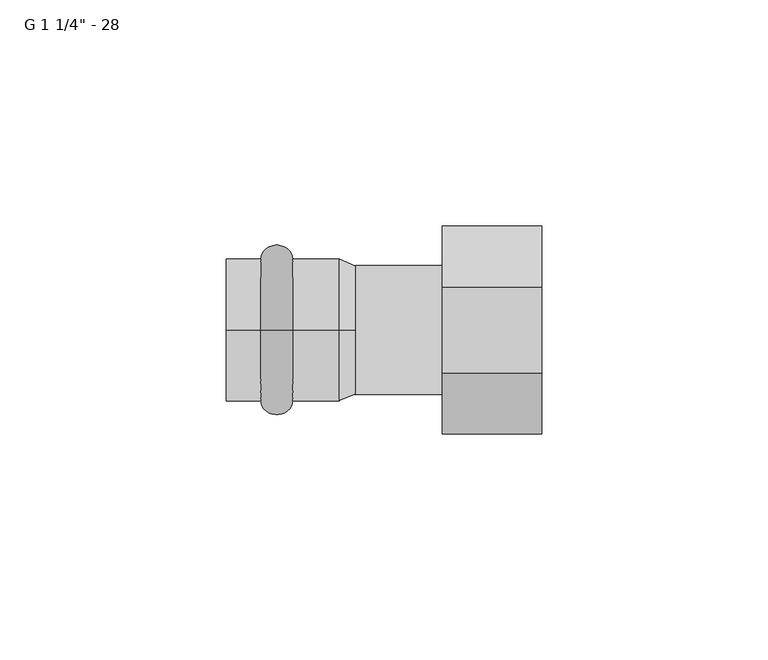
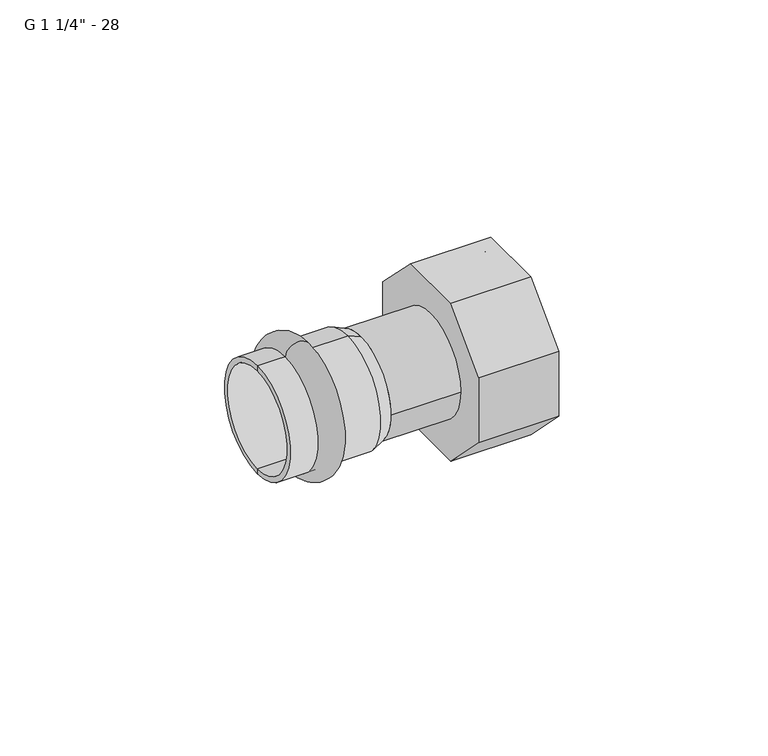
"""IFC4 building model written with IfcOpenShell, lengths in millimetres: pipe fitting geometry."""

from ifc_helpers import new_model, si_unit, point, frame, origin, origin_2d, place, context, project, spatial, polyline, circle_curve, ellipse_curve, trimmed, segment, composite_curve, outline, extrude, source, transform, mapped, element, save
from ifc_brep_helpers import plane_surface, cylinder_surface, revolved_surface, advanced_brep


def pipe_fitting_48b994d6(model_context):
    return source(origin(), model_context, "Body", "SolidModel", [
        advanced_brep(
        [(-17.3, 0.0, 15.75), (-17.3, 0.0, -15.75), (-10.3, 0.0, -15.75), (-10.3, 0.0, 15.75)],
        [
            (0, 1, circle_curve(frame((-17.3, 0.0, 0.0), z_axis=(-1.0, 0.0, 0.0), x_axis=(0.0, 0.0, -1.0)), 15.75)),
            (1, 2),
            (2, 3, circle_curve(frame((-10.3, 0.0, 0.0), z_axis=(1.0, 0.0, 0.0), x_axis=(0.0, 0.0, -1.0)), 15.75)),
            (3, 0),
            (1, 0, circle_curve(frame((-17.3, 0.0, 0.0), z_axis=(-1.0, 0.0, 0.0), x_axis=(0.0, 0.0, -1.0)), 15.75)),
            (3, 2, circle_curve(frame((-10.3, 0.0, 0.0), z_axis=(1.0, 0.0, 0.0), x_axis=(0.0, 0.0, -1.0)), 15.75)),
            (2, 1, ellipse_curve(frame((-13.8, 0.0, -15.75), z_axis=(0.0, 1.0, 0.0), x_axis=(-1.0, 0.0, 0.0)), 3.5, 3.1)),
            (0, 3, ellipse_curve(frame((-13.8, 0.0, 15.75), z_axis=(0.0, 1.0, 0.0), x_axis=(-1.0, 0.0, 0.0)), 3.5, 3.1)),
        ],
        [
            revolved_surface(polyline([(-10.3, 0.0, -15.75), (-17.3, 0.0, -15.75)]), (2.7, 0.0, 0.0), (1.0, 0.0, 0.0)),
            revolved_surface(trimmed(ellipse_curve(frame((-13.8, 0.0, -15.75), z_axis=(0.0, -1.0, 0.0), x_axis=(-1.0, 0.0, 0.0)), 3.5, 3.1), [point((-17.3, 0.0, -15.75))], [point((-10.3, 0.0, -15.75))], True, "CARTESIAN"), (2.7, 0.0, 0.0), (1.0, 0.0, 0.0)),
        ],
        [
            (0, [[1, 2, 3, 4]]),
            (0, [[5, -4, 6, -2]]),
            (1, [[-3, 7, -1, 8]]),
            (1, [[-6, -8, -5, -7]]),
        ],
    ),
        advanced_brep(
        [(3.5337785, 0.0, 14.25), (3.5337785, 0.0, -14.25), (0.0, 0.0, -15.75), (0.0, 0.0, 15.75), (-25.0, 0.0, 14.25), (-25.0, 0.0, -14.25), (-25.0, 0.0, 15.75), (-25.0, 0.0, -15.75)],
        [
            (0, 1, circle_curve(frame((3.5337785, 0.0, 0.0), z_axis=(-1.0, 0.0, 0.0), x_axis=(0.0, 0.0, -1.0)), 14.25)),
            (1, 2),
            (2, 3, circle_curve(frame((0.0, 0.0, 0.0), z_axis=(1.0, 0.0, 0.0), x_axis=(0.0, 0.0, -1.0)), 15.75)),
            (3, 0),
            (1, 0, circle_curve(frame((3.5337785, 0.0, 0.0), z_axis=(-1.0, 0.0, 0.0), x_axis=(0.0, 0.0, -1.0)), 14.25)),
            (3, 2, circle_curve(frame((0.0, 0.0, 0.0), z_axis=(1.0, 0.0, 0.0), x_axis=(0.0, 0.0, -1.0)), 15.75)),
            (4, 5, circle_curve(frame((-25.0, 0.0, 0.0), z_axis=(-1.0, 0.0, 0.0), x_axis=(0.0, 0.0, -1.0)), 14.25)),
            (5, 1),
            (0, 4),
            (5, 4, circle_curve(frame((-25.0, 0.0, 0.0), z_axis=(-1.0, 0.0, 0.0), x_axis=(0.0, 0.0, -1.0)), 14.25)),
            (6, 7, circle_curve(frame((-25.0, 0.0, 0.0), z_axis=(-1.0, 0.0, 0.0), x_axis=(0.0, 0.0, -1.0)), 15.75)),
            (7, 5),
            (4, 6),
            (7, 6, circle_curve(frame((-25.0, 0.0, 0.0), z_axis=(-1.0, 0.0, 0.0), x_axis=(0.0, 0.0, -1.0)), 15.75)),
            (2, 7),
            (6, 3),
        ],
        [
            revolved_surface(polyline([(0.0, 0.0, -15.75), (3.5337785, 0.0, -14.25)]), (2.7, 0.0, 0.0), (1.0, 0.0, 0.0)),
            revolved_surface(polyline([(3.5337785, 0.0, -14.25), (-25.0, 0.0, -14.25)]), (2.7, 0.0, 0.0), (1.0, 0.0, 0.0)),
            plane_surface(frame((-25.0, 0.0, 0.0), z_axis=(-1.0, 0.0, 0.0), x_axis=(0.0, 0.0, -1.0))),
            cylinder_surface(frame((2.7, 0.0, 0.0), z_axis=(1.0, 0.0, 0.0), x_axis=(0.0, 0.0, -1.0)), 15.75),
        ],
        [
            (0, [[1, 2, 3, 4]]),
            (0, [[5, -4, 6, -2]]),
            (1, [[7, 8, -1, 9]]),
            (1, [[10, -9, -5, -8]]),
            (2, [[11, 12, -7, 13]]),
            (2, [[14, -13, -10, -12]]),
            (3, [[-3, 15, -11, 16]]),
            (3, [[-6, -16, -14, -15]]),
        ],
    ),
        extrude(outline(composite_curve([segment(trimmed(circle_curve(origin_2d(), 14.25), [point((-14.25, 0.0))], [point((14.25, 0.0))], False, "CARTESIAN"), True, "CONTINUOUS"), segment(trimmed(circle_curve(origin_2d(), 14.25), [point((14.25, 0.0))], [point((-14.25, 0.0))], False, "CARTESIAN"), True, "CONTINUOUS")], self_intersect=False)), frame((3.5337785, 0.0, 0.0), z_axis=(1.0, 0.0, 0.0), x_axis=(0.0, 1.0, 0.0)), (0.0, 0.0, 1.0), 19.3),
        advanced_brep(
        [(44.8337785, -23.0, -9.5269119), (22.8337785, -23.0, -9.5269119), (22.8337785, -9.5269119, -23.0), (44.8337785, -9.5269119, -23.0), (22.8337785, 9.5269119, -23.0), (44.8337785, 9.5269119, -23.0), (44.8337785, 23.0, 9.5269119), (22.8337785, 23.0, 9.5269119), (22.8337785, 9.5269119, 23.0), (44.8337785, 9.5269119, 23.0), (22.8337785, -9.5269119, 23.0), (44.8337785, -9.5269119, 23.0), (22.8337785, 23.0, -9.5269119), (44.8337785, 23.0, -9.5269119), (22.8337785, -23.0, 9.5269119), (44.8337785, -23.0, 9.5269119), (28.8337785, -21.0, 0.0), (28.8337785, 21.0, 0.0), (28.8337785, -5.3847763, -13.0), (28.8337785, -13.0, -5.3847763), (28.8337785, -13.0, 5.3847763), (28.8337785, -5.3847763, 13.0), (28.8337785, 5.3847763, 13.0), (28.8337785, 13.0, 5.3847763), (28.8337785, 13.0, -5.3847763), (28.8337785, 5.3847763, -13.0), (44.8337785, 21.0, 0.0), (44.8337785, -21.0, 0.0), (22.8337785, -13.0, -5.3847763), (22.8337785, -5.3847763, -13.0), (22.8337785, 5.3847763, -13.0), (22.8337785, 13.0, -5.3847763), (22.8337785, 13.0, 5.3847763), (22.8337785, 5.3847763, 13.0), (22.8337785, -5.3847763, 13.0), (22.8337785, -13.0, 5.3847763)],
        [
            (0, 1),
            (1, 2),
            (2, 3),
            (3, 0),
            (2, 4),
            (4, 5),
            (5, 3),
            (6, 7),
            (7, 8),
            (8, 9),
            (9, 6),
            (8, 10),
            (10, 11),
            (11, 9),
            (4, 12),
            (12, 13),
            (13, 5),
            (10, 14),
            (14, 15),
            (15, 11),
            (16, 17, circle_curve(frame((28.8337785, 0.0, 0.0), z_axis=(1.0, 0.0, 0.0), x_axis=(0.0, 1.0, 0.0)), 21.0)),
            (17, 16, circle_curve(frame((28.8337785, 0.0, 0.0), z_axis=(1.0, 0.0, 0.0), x_axis=(0.0, 1.0, 0.0)), 21.0)),
            (18, 19),
            (19, 20),
            (20, 21),
            (21, 22),
            (22, 23),
            (23, 24),
            (24, 25),
            (25, 18),
            (17, 26),
            (26, 27, circle_curve(frame((44.8337785, 0.0, 0.0), z_axis=(1.0, 0.0, 0.0), x_axis=(0.0, 1.0, 0.0)), 21.0)),
            (27, 16),
            (27, 26, circle_curve(frame((44.8337785, 0.0, 0.0), z_axis=(1.0, 0.0, 0.0), x_axis=(0.0, 1.0, 0.0)), 21.0)),
            (6, 13),
            (12, 7),
            (15, 0),
            (1, 14),
            (28, 29),
            (29, 30),
            (30, 31),
            (31, 32),
            (32, 33),
            (33, 34),
            (34, 35),
            (35, 28),
            (28, 19),
            (18, 29),
            (25, 30),
            (32, 23),
            (22, 33),
            (21, 34),
            (24, 31),
            (20, 35),
        ],
        [
            plane_surface(frame((22.8337785, -23.0, -9.5269119), z_axis=(0.0, -0.7071067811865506, -0.7071067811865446), x_axis=(0.0, 0.7071067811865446, -0.7071067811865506))),
            plane_surface(frame((22.8337785, -9.5269119, -23.0), z_axis=(0.0, 0.0, -1.0), x_axis=(0.0, 1.0, 0.0))),
            plane_surface(frame((22.8337785, 23.0, 9.5269119), z_axis=(0.0, 0.7071067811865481, 0.707106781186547), x_axis=(0.0, -0.707106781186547, 0.7071067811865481))),
            plane_surface(frame((22.8337785, 9.5269119, 23.0), z_axis=(0.0, 0.0, 1.0), x_axis=(0.0, -1.0, 0.0))),
            plane_surface(frame((22.8337785, 9.5269119, -23.0), z_axis=(0.0, 0.7071067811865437, -0.7071067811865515), x_axis=(0.0, 0.7071067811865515, 0.7071067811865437))),
            plane_surface(frame((22.8337785, -9.5269119, 23.0), z_axis=(0.0, -0.7071067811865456, 0.7071067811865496), x_axis=(0.0, -0.7071067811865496, -0.7071067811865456))),
            plane_surface(frame((28.8337785, 21.0, 0.0), z_axis=(1.0, 0.0, 0.0), x_axis=(0.0, 0.0, -1.0))),
            revolved_surface(polyline([(44.8337785, 21.0, 0.0), (28.8337785, 21.0, 0.0)]), (28.8337785, 0.0, 0.0), (1.0, 0.0, 0.0)),
            plane_surface(frame((22.8337785, 23.0, -9.5269119), z_axis=(0.0, 1.0, 0.0), x_axis=(0.0, 0.0, 1.0))),
            plane_surface(frame((44.8337785, -23.0, 9.5269119), z_axis=(1.0, 0.0, 0.0), x_axis=(0.0, 0.0, -1.0))),
            plane_surface(frame((22.8337785, -13.0, 5.3847763), z_axis=(-1.0, 0.0, 0.0), x_axis=(0.0, 0.0, -1.0))),
            plane_surface(frame((22.8337785, -23.0, 9.5269119), z_axis=(0.0, -1.0, 0.0), x_axis=(0.0, 0.0, -1.0))),
            plane_surface(frame((44.8337785, -13.0, -5.3847763), z_axis=(0.0, 0.7071067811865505, 0.7071067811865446), x_axis=(0.0, 0.7071067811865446, -0.7071067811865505))),
            plane_surface(frame((44.8337785, -5.3847763, -13.0), z_axis=(0.0, 0.0, 1.0), x_axis=(0.0, 1.0, 0.0))),
            plane_surface(frame((44.8337785, 13.0, 5.3847763), z_axis=(0.0, -0.7071067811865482, -0.7071067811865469), x_axis=(0.0, -0.7071067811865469, 0.7071067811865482))),
            plane_surface(frame((44.8337785, 5.3847763, 13.0), z_axis=(0.0, 0.0, -1.0), x_axis=(0.0, -1.0, 0.0))),
            plane_surface(frame((44.8337785, 5.3847763, -13.0), z_axis=(0.0, -0.7071067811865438, 0.7071067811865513), x_axis=(0.0, 0.7071067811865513, 0.7071067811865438))),
            plane_surface(frame((44.8337785, -5.3847763, 13.0), z_axis=(0.0, 0.7071067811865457, -0.7071067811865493), x_axis=(0.0, -0.7071067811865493, -0.7071067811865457))),
            plane_surface(frame((44.8337785, 13.0, -5.3847763), z_axis=(0.0, -1.0, 0.0), x_axis=(0.0, 0.0, 1.0))),
            plane_surface(frame((44.8337785, -13.0, 5.3847763), z_axis=(0.0, 1.0, 0.0), x_axis=(0.0, 0.0, -1.0))),
        ],
        [
            (0, [[1, 2, 3, 4]]),
            (1, [[-3, 5, 6, 7]]),
            (2, [[8, 9, 10, 11]]),
            (3, [[-10, 12, 13, 14]]),
            (4, [[-6, 15, 16, 17]]),
            (5, [[-13, 18, 19, 20]]),
            (6, [[21, 22], [23, 24, 25, 26, 27, 28, 29, 30]]),
            (7, [[-22, 31, 32, 33]]),
            (7, [[-21, -33, 34, -31]]),
            (8, [[-8, 35, -16, 36]]),
            (9, [[-4, -7, -17, -35, -11, -14, -20, 37], [-32, -34]]),
            (10, [[-2, 38, -18, -12, -9, -36, -15, -5], [39, 40, 41, 42, 43, 44, 45, 46]]),
            (11, [[-1, -37, -19, -38]]),
            (12, [[-39, 47, -23, 48]]),
            (13, [[-40, -48, -30, 49]]),
            (14, [[-43, 50, -27, 51]]),
            (15, [[-44, -51, -26, 52]]),
            (16, [[-41, -49, -29, 53]]),
            (17, [[-45, -52, -25, 54]]),
            (18, [[-42, -53, -28, -50]]),
            (19, [[-46, -54, -24, -47]]),
        ],
    ),
    ])


if __name__ == "__main__":
    model = new_model("IFC4")
    model_context = context("Model", 3, world=origin())
    ifc_project = project(units=[si_unit("LENGTHUNIT", "METRE", prefix="MILLI")], contexts=[model_context])
    site = spatial("IfcSite", under=ifc_project)
    building = spatial("IfcBuilding", under=site)
    placement = place(None, origin())
    pipe_fitting_shape = pipe_fitting_48b994d6(model_context)
    element("IfcPipeFitting", 1, ObjectType="РЕХАУ_Пресс Муфта с накидной гайкой : G 1 1/4\" - 28", at=placement, inside=building, context=model_context, shape_type="MappedRepresentation", body=[
        mapped(pipe_fitting_shape, transform((0.0, 0.0, 0.0), x_axis=(1.0, 0.0, 0.0), y_axis=(0.0, 1.0, 0.0), z_axis=(0.0, 0.0, 1.0))),
    ])
    save(model, "model.ifc")
